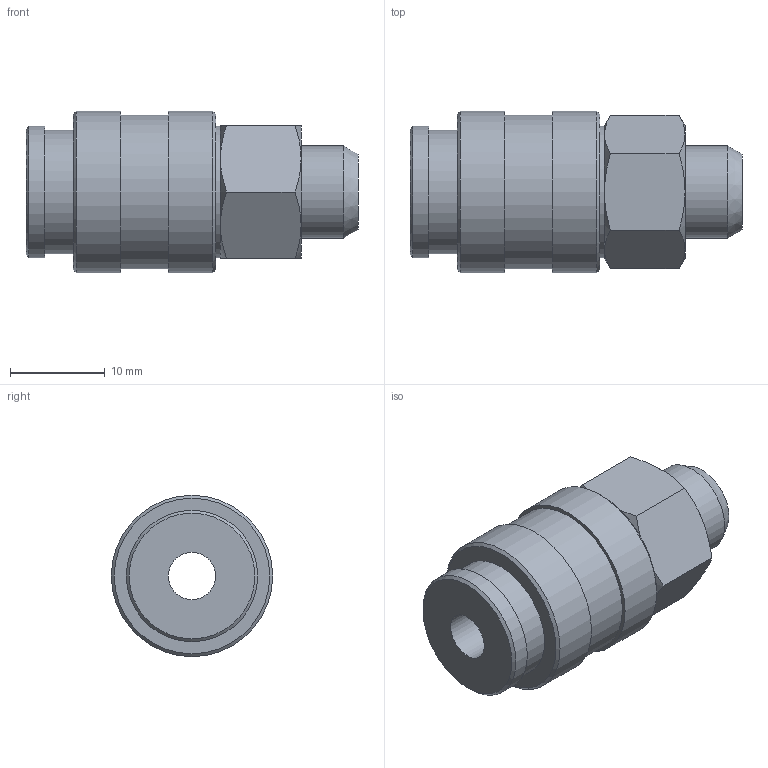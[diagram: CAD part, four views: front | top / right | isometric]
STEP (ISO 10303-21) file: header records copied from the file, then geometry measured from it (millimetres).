
FILE_DESCRIPTION(('STEP AP214'),'1');
FILE_NAME('CA.12.06.001.stp','2019-06-06T10:17:05',(' '),(' '),'Spatial InterOp 3D',' ',' ');
FILE_SCHEMA(('AUTOMOTIVE_DESIGN { 1 0 10303 214 1 1 1 1 }'));
Length unit declared in the file: millimetre
Products named in the file (1): CA.12.06.001
Bounding box: 35 x 17 x 17 mm (x, y, z)
Volume: 5245.1 mm3; surface area: 2631 mm2
Topology: 1 solids, 1 shells, 39 faces, 74 edges, 44 vertices
Faces by surface type: cone 16, plane 15, cylinder 8
Full cylindrical faces by diameter (mm): 5 x1, 9.728 x1, 13 x1, 13.85 x2, 16.2 x1, 17 x2
Entity records: 1220 total; most frequent: CARTESIAN_POINT 194, DIRECTION 150, ORIENTED_EDGE 124, AXIS2_PLACEMENT_3D 72, EDGE_CURVE 62, EDGE_LOOP 60, FACE_OUTER_BOUND 47, VERTEX_POINT 44
